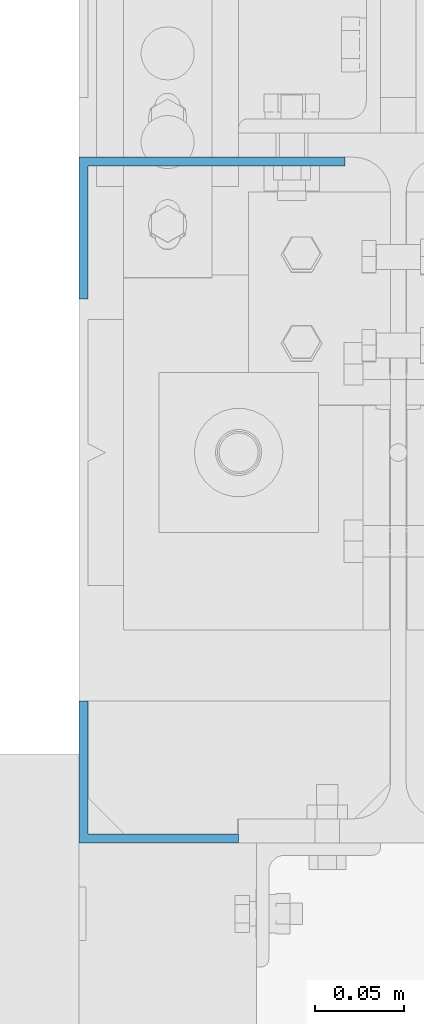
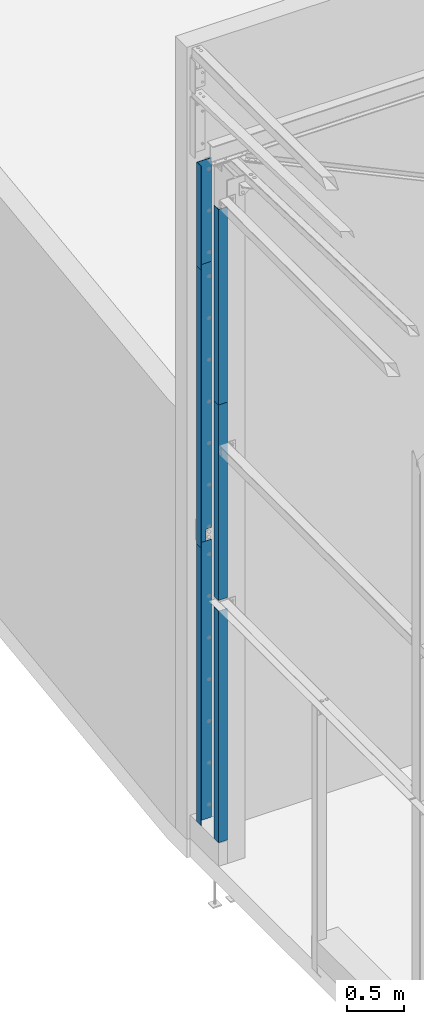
# One storey, part 344 of 362: 6 beams, 4 elements without a shape of their own.
"""IFC2X3 building model written with IfcOpenShell, lengths in millimetres."""

from ifc_helpers import new_model, si_unit, frame, origin_with_axes, place, context, subcontext, project, spatial, faceted_brep, material, type_object, element, aggregate, save


model = new_model("IFC2X3")

# Units and contexts
model_context = context("Model", 3, precision=1e-05, world=origin_with_axes())
body_context = subcontext(model_context, "Body", "Model", "MODEL_VIEW")
ifc_project = project(units=[si_unit("LENGTHUNIT", "METRE", prefix="MILLI"), si_unit("AREAUNIT", "SQUARE_METRE"), si_unit("VOLUMEUNIT", "CUBIC_METRE"), si_unit("MASSUNIT", "GRAM", prefix="KILO"), si_unit("TIMEUNIT", "SECOND"), si_unit("PLANEANGLEUNIT", "RADIAN"), si_unit("SOLIDANGLEUNIT", "STERADIAN"), si_unit("THERMODYNAMICTEMPERATUREUNIT", "DEGREE_CELSIUS"), si_unit("LUMINOUSINTENSITYUNIT", "LUMEN")], contexts=[model_context])

# Site, building, storey
site_placement = place(None, origin_with_axes())
site = spatial("IfcSite", under=ifc_project, at=site_placement, Name="Undefined", CompositionType="ELEMENT")
building_placement = place(site_placement, origin_with_axes())
building = spatial("IfcBuilding", under=site, at=building_placement, Name="Undefined", CompositionType="ELEMENT")
storey_placement = place(building_placement, origin_with_axes())
storey = spatial("IfcBuildingStorey", under=building, at=storey_placement, Name="Undefined", CompositionType="ELEMENT", Elevation=0.0)

# Assembly, beam
assembly_1_placement = place(storey_placement, origin_with_axes())
assembly_1 = element("IfcElementAssembly", 1, at=assembly_1_placement, inside=storey, AssemblyPlace="NOTDEFINED", PredefinedType="NOTDEFINED")
ifc_material = material(Name="Undefined/S235-E24")
beam_type_1 = type_object("IfcBeamType", Name="PL5*3000", PredefinedType="NOTDEFINED")
beam_1_placement = place(assembly_1_placement, frame((-29.9999993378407, 15274.0000080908, 4750.00001534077), z_axis=(0.0, 0.0, 1.0), x_axis=(-1.0, 0.0, 0.0)))
beam_1 = element("IfcBeam", 2, at=beam_1_placement, type_object=beam_type_1, material=ifc_material, Name="FEUILLURE", ObjectType="PL5*3000", context=body_context, shape_type="Brep", body=[
    faceted_brep([(59.9999999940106, -2.49999997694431, -1375.00001545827), (60.0000000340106, 2.50000002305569, -1375.00001546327), (59.9999997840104, 2.50000002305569, -1500.0), (59.9999997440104, -2.49999997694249, -1500.0), (-5.98940275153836e-09, -2.50000000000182, -1375.00001533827), (-9.81920322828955e-10, 2.49999999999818, -1375.00001534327), (150.000030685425, -2.49999994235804, 1500.0), (150.000030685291, -2.49999994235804, -1500.0), (150.000031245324, 77.4999991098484, -1500.0), (150.000031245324, 77.4999991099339, 1500.0), (145.000030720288, 2.5000000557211, -1500.0), (145.000030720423, 2.5000000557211, 1500.0), (145.000031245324, 77.4999991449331, 1500.0), (145.000031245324, 77.4999991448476, -1500.0), (1.04409991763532e-09, 2.5, 1500.0), (-1.04046193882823e-09, -2.5, 1500.0)], [[[0, 1, 2, 3]], [[4, 5, 1, 0]], [[6, 7, 8, 9]], [[10, 11, 12, 13]], [[9, 8, 13, 12]], [[11, 14, 15, 6, 9, 12]], [[3, 7, 6, 15, 4, 0]], [[10, 13, 8, 7, 3, 2]], [[14, 11, 10, 2, 1, 5]], [[15, 14, 5, 4]]]),
])
aggregate(assembly_1, [beam_1])

assembly_2_placement = place(storey_placement, origin_with_axes())
assembly_2 = element("IfcElementAssembly", 3, at=assembly_2_placement, inside=storey, AssemblyPlace="NOTDEFINED", PredefinedType="NOTDEFINED")
beam_2_placement = place(assembly_2_placement, frame((-29.9999993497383, 15274.0000047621, 1749.99999991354), z_axis=(0.0, 0.0, 1.0), x_axis=(-1.0, 0.0, 0.0)))
beam_2 = element("IfcBeam", 4, at=beam_2_placement, type_object=beam_type_1, material=ifc_material, Name="FEUILLURE", ObjectType="PL5*3000", context=body_context, shape_type="Brep", body=[
    faceted_brep([(-1.04046193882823e-09, -2.5, -1500.0), (-1.04046193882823e-09, -2.5, 1500.0), (1.04409991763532e-09, 2.5, 1500.0), (1.04409991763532e-09, 2.5, -1500.0), (145.000030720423, 2.5000000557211, 1500.0), (145.000030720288, 2.5000000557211, -1500.0), (150.000030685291, -2.49999994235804, -1500.0), (150.000030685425, -2.49999994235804, 1500.0), (145.000031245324, 77.4999991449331, 1500.0), (145.000031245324, 77.4999991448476, -1500.0), (150.000031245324, 77.4999991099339, 1500.0), (150.000031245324, 77.4999991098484, -1500.0)], [[[0, 1, 2, 3]], [[3, 2, 4, 5]], [[1, 0, 6, 7]], [[5, 4, 8, 9]], [[4, 2, 1, 7, 10, 8]], [[7, 6, 11, 10]], [[6, 0, 3, 5, 9, 11]], [[10, 11, 9, 8]]]),
])
aggregate(assembly_2, [beam_2])

assembly_3_placement = place(storey_placement, origin_with_axes())
assembly_3 = element("IfcElementAssembly", 5, at=assembly_3_placement, inside=storey, Name="POTEAU", AssemblyPlace="NOTDEFINED", PredefinedType="NOTDEFINED")
beam_type_2 = type_object("IfcBeamType", Name="PL5*2500", PredefinedType="NOTDEFINED")
beam_3_placement = place(assembly_3_placement, frame((-89.999996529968, 14892.500004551, 1505.00000064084), z_axis=(0.0, 0.0, 1.0), x_axis=(-1.0, 0.0, 0.0)))
beam_3 = element("IfcBeam", 6, at=beam_3_placement, type_object=beam_type_2, material=ifc_material, Name="FEUILLURE", ObjectType="PL5*2500", context=body_context, shape_type="Brep", body=[
    faceted_brep([(9.51388301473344e-10, -2.50000000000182, -1250.0), (9.51388301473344e-10, -2.50000000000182, 1250.0), (-9.51388301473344e-10, 2.49999999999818, 1250.0), (-9.51388301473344e-10, 2.49999999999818, -1250.0), (90.0000228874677, 2.50000003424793, 1250.0), (90.0000228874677, 2.50000003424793, -1250.0), (85.0000233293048, -2.49999996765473, -1250.0), (85.0000233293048, -2.49999996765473, 1250.0), (90.0000299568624, -77.500000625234, 1250.0), (90.0000299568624, -77.500000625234, -1250.0), (85.0000299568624, -77.5000010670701, 1250.0), (85.0000299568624, -77.5000010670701, -1250.0)], [[[0, 1, 2, 3]], [[3, 2, 4, 5]], [[1, 0, 6, 7]], [[5, 4, 8, 9]], [[4, 2, 1, 7, 10, 8]], [[7, 6, 11, 10]], [[6, 0, 3, 5, 9, 11]], [[10, 11, 9, 8]]]),
])

assembly_4_placement = place(storey_placement, origin_with_axes())
assembly_4 = element("IfcElementAssembly", 7, at=assembly_4_placement, inside=storey, AssemblyPlace="NOTDEFINED", PredefinedType="NOTDEFINED")
beam_type_3 = type_object("IfcBeamType", Name="PL5*1120", PredefinedType="NOTDEFINED")
beam_4_placement = place(assembly_4_placement, frame((-29.9999993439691, 15274.0000097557, 6810.00003076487), z_axis=(0.0, 0.0, 1.0), x_axis=(-1.0, 0.0, 0.0)))
beam_4 = element("IfcBeam", 8, at=beam_4_placement, type_object=beam_type_3, material=ifc_material, Name="FEUILLURE", ObjectType="PL5*1120", context=body_context, shape_type="Brep", body=[
    faceted_brep([(9.46890565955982e-10, -2.50000000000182, -560.0), (9.74512914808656e-10, -2.50000000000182, 560.0), (-9.46887013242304e-10, 2.49999999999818, 560.0), (-9.74509362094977e-10, 2.49999999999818, -560.0), (145.000030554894, 2.50000005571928, 559.999999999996), (145.000030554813, 2.50000005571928, -560.000000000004), (150.000030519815, -2.49999994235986, -560.000000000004), (150.000030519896, -2.49999994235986, 559.999999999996), (145.000031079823, 77.4999989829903, 559.999999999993), (145.000031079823, 77.499998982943, -560.000000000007), (150.000031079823, 77.4999989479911, 559.999999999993), (150.000031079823, 77.4999989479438, -560.000000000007)], [[[0, 1, 2, 3]], [[3, 2, 4, 5]], [[1, 0, 6, 7]], [[5, 4, 8, 9]], [[4, 2, 1, 7, 10, 8]], [[7, 6, 11, 10]], [[6, 0, 3, 5, 9, 11]], [[10, 11, 9, 8]]]),
])
aggregate(assembly_4, [beam_4])

# Beam
beam_type_4 = type_object("IfcBeamType", Name="PL5*2110", PredefinedType="NOTDEFINED")
beam_5_placement = place(assembly_3_placement, frame((-89.9999965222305, 14892.5000019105, 6034.999999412), z_axis=(0.0, 0.0, 1.0), x_axis=(-1.0, 0.0, 0.0)))
beam_5 = element("IfcBeam", 9, at=beam_5_placement, type_object=beam_type_4, material=ifc_material, Name="FEUILLURE", ObjectType="PL5*2110", context=body_context, shape_type="Brep", body=[
    faceted_brep([(9.51445144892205e-10, -2.5, -1055.0), (9.5145935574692e-10, -2.5, 1055.0), (-9.51416723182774e-10, 2.49999999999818, 1055.0), (-9.51430934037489e-10, 2.49999999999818, -1055.0), (90.0000228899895, 2.50000003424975, 1055.0), (90.0000228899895, 2.50000003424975, -1055.0), (85.0000233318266, -2.49999996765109, -1055.0), (85.0000233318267, -2.49999996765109, 1055.0), (90.0000299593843, -77.5000006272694, 1055.0), (90.0000299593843, -77.5000006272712, -1055.0), (85.0000299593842, -77.5000010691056, 1055.0), (85.0000299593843, -77.5000010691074, -1055.0)], [[[0, 1, 2, 3]], [[3, 2, 4, 5]], [[1, 0, 6, 7]], [[5, 4, 8, 9]], [[4, 2, 1, 7, 10, 8]], [[7, 6, 11, 10]], [[6, 0, 3, 5, 9, 11]], [[10, 11, 9, 8]]]),
])

beam_6_placement = place(assembly_3_placement, frame((-89.9999965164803, 14892.500006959, 3924.99999940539), z_axis=(0.0, 0.0, 1.0), x_axis=(-1.0, 0.0, 0.0)))
beam_6 = element("IfcBeam", 10, at=beam_6_placement, type_object=beam_type_4, material=ifc_material, Name="FEUILLURE", ObjectType="PL5*2110", context=body_context, shape_type="Brep", body=[
    faceted_brep([(9.51445144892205e-10, -2.5, -1055.0), (9.5145935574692e-10, -2.5, 1055.0), (-9.51416723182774e-10, 2.49999999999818, 1055.0), (-9.51430934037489e-10, 2.49999999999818, -1055.0), (90.0000228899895, 2.50000003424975, 1055.0), (90.0000228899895, 2.50000003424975, -1055.0), (85.0000233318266, -2.49999996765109, -1055.0), (85.0000233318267, -2.49999996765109, 1055.0), (90.0000299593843, -77.5000006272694, 1055.0), (90.0000299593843, -77.5000006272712, -1055.0), (85.0000299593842, -77.5000010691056, 1055.0), (85.0000299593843, -77.5000010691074, -1055.0)], [[[0, 1, 2, 3]], [[3, 2, 4, 5]], [[1, 0, 6, 7]], [[5, 4, 8, 9]], [[4, 2, 1, 7, 10, 8]], [[7, 6, 11, 10]], [[6, 0, 3, 5, 9, 11]], [[10, 11, 9, 8]]]),
])

aggregate(assembly_3, [beam_3, beam_5, beam_6])

save(model, "model.ifc")
